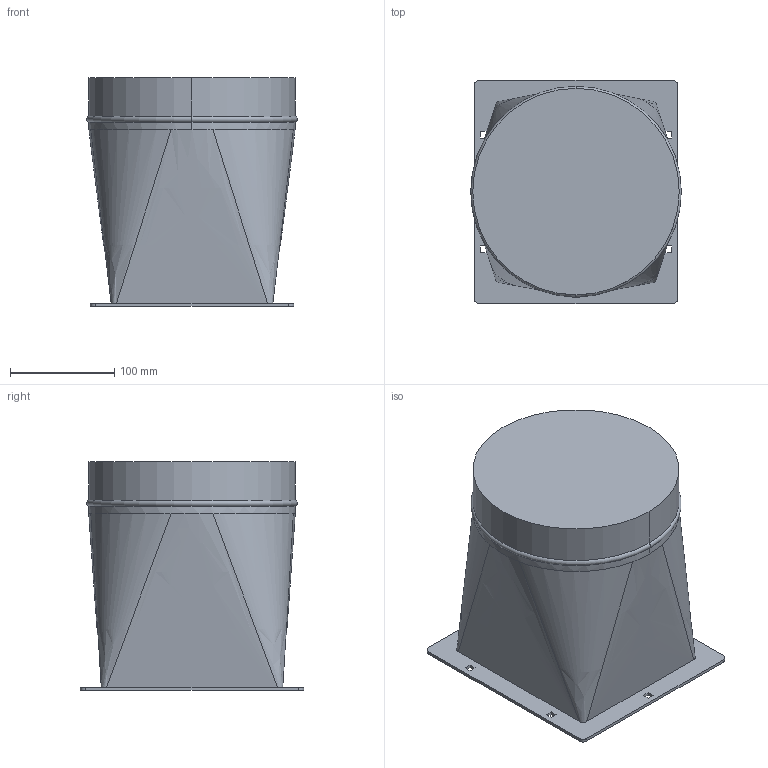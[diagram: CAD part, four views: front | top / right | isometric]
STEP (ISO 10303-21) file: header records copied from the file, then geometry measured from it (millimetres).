
FILE_DESCRIPTION((''),'2;1');
FILE_NAME('FTO_150-220','2023-01-24T15:24:08',('Tomas Bellgran'),(''),'CREO PARAMETRIC BY PTC INC, 2018260','CREO PARAMETRIC BY PTC INC, 2018260','');
FILE_SCHEMA(('AUTOMOTIVE_DESIGN { 1 0 10303 214 1 1 1 1 }'));
Length unit declared in the file: millimetre
Products named in the file (1): FTO_150-220
Bounding box: 202 x 214 x 219.3 mm (x, y, z)
Volume: 6647532.7 mm3; surface area: 227901.6 mm2
Topology: 1 solids, 1 shells, 49 faces, 146 edges, 100 vertices
Faces by surface type: plane 31, bspline 8, cylinder 8, torus 2
Entity records: 2560 total; most frequent: CARTESIAN_POINT 1038, ORIENTED_EDGE 292, DIRECTION 267, EDGE_CURVE 146, VECTOR 104, LINE 104, VERTEX_POINT 100, AXIS2_PLACEMENT_3D 80
